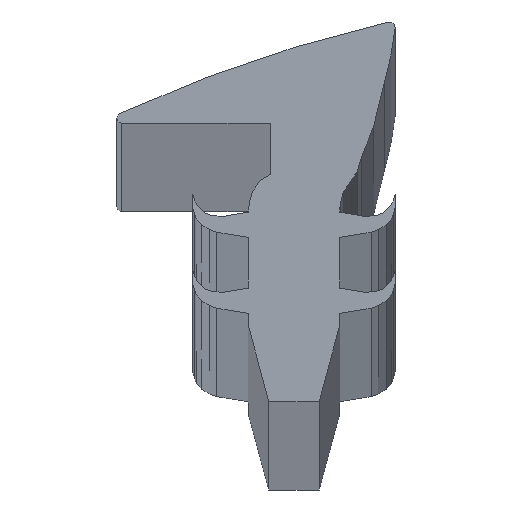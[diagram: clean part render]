
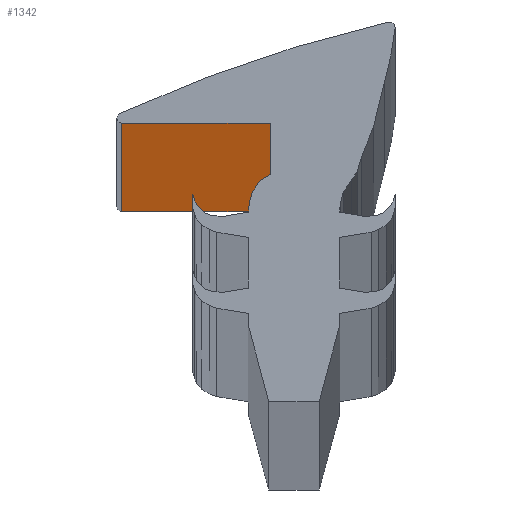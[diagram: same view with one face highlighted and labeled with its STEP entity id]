
A CAD part, top view. The second image highlights one B-rep face of the part: STEP entity #1342.
In plain terms, the highlighted planar face has unit normal (0, -1, 0).
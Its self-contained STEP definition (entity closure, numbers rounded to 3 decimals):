
#160 = LINE ( 'NONE', #1953, #163 ) ;
#163 = VECTOR ( 'NONE', #2566, 1000. ) ;
#175 = VERTEX_POINT ( 'NONE', #1016 ) ;
#216 = PLANE ( 'NONE',  #2685 ) ;
#264 = EDGE_CURVE ( 'NONE', #2758, #452, #1759, .T. ) ;
#275 = EDGE_LOOP ( 'NONE', ( #1062, #1161, #1469, #2140 ) ) ;
#293 = CARTESIAN_POINT ( 'NONE',  ( 0., 0., 1000. ) ) ;
#308 = DIRECTION ( 'NONE',  ( 0., 0., -1. ) ) ;
#452 = VERTEX_POINT ( 'NONE', #2319 ) ;
#496 = CARTESIAN_POINT ( 'NONE',  ( -2.935, 0., 1000. ) ) ;
#648 = EDGE_CURVE ( 'NONE', #2758, #175, #160, .T. ) ;
#964 = LINE ( 'NONE', #293, #1896 ) ;
#1016 = CARTESIAN_POINT ( 'NONE',  ( -2.935, 0., 0. ) ) ;
#1042 = CARTESIAN_POINT ( 'NONE',  ( -2.935, 0., 0. ) ) ;
#1062 = ORIENTED_EDGE ( 'NONE', *, *, #2268, .T. ) ;
#1069 = VERTEX_POINT ( 'NONE', #1664 ) ;
#1087 = DIRECTION ( 'NONE',  ( 0., 0., 1. ) ) ;
#1103 = VECTOR ( 'NONE', #1854, 1000. ) ;
#1136 = FACE_OUTER_BOUND ( 'NONE', #275, .T. ) ;
#1161 = ORIENTED_EDGE ( 'NONE', *, *, #2587, .F. ) ;
#1243 = VECTOR ( 'NONE', #1603, 1000. ) ;
#1342 = ADVANCED_FACE ( 'NONE', ( #1136 ), #216, .F. ) ;
#1469 = ORIENTED_EDGE ( 'NONE', *, *, #264, .F. ) ;
#1603 = DIRECTION ( 'NONE',  ( 1., 0., 0. ) ) ;
#1664 = CARTESIAN_POINT ( 'NONE',  ( 0., 0., 0. ) ) ;
#1697 = CARTESIAN_POINT ( 'NONE',  ( -2.935, 0., 1000. ) ) ;
#1759 = LINE ( 'NONE', #2612, #1243 ) ;
#1854 = DIRECTION ( 'NONE',  ( 1., 0., 0. ) ) ;
#1896 = VECTOR ( 'NONE', #308, 1000. ) ;
#1953 = CARTESIAN_POINT ( 'NONE',  ( -2.935, 0., 1000. ) ) ;
#2140 = ORIENTED_EDGE ( 'NONE', *, *, #648, .T. ) ;
#2233 = DIRECTION ( 'NONE',  ( 0., 1., 0. ) ) ;
#2268 = EDGE_CURVE ( 'NONE', #175, #1069, #2706, .T. ) ;
#2319 = CARTESIAN_POINT ( 'NONE',  ( 0., 0., 1000. ) ) ;
#2566 = DIRECTION ( 'NONE',  ( 0., 0., -1. ) ) ;
#2587 = EDGE_CURVE ( 'NONE', #452, #1069, #964, .T. ) ;
#2612 = CARTESIAN_POINT ( 'NONE',  ( -2.935, 0., 1000. ) ) ;
#2685 = AXIS2_PLACEMENT_3D ( 'NONE', #496, #2233, #1087 ) ;
#2706 = LINE ( 'NONE', #1042, #1103 ) ;
#2758 = VERTEX_POINT ( 'NONE', #1697 ) ;
